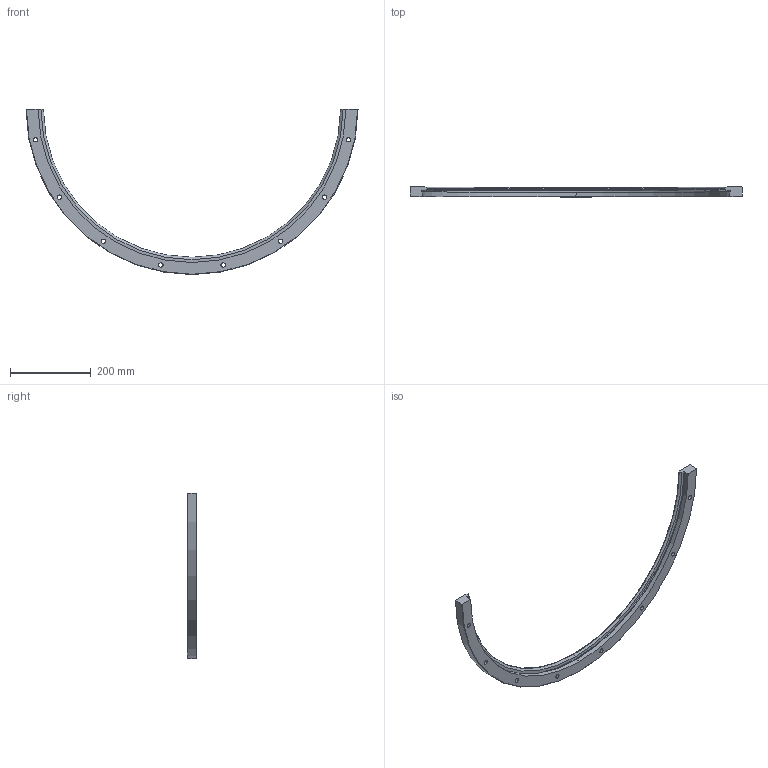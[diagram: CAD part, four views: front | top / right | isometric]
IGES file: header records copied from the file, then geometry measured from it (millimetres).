
Start section: 3D InterOp IGES (v. 2020 1.0.1), Spatial Corp. Copyright (c) 1999-2017.
Global section: file name: ril_820_r180.igs; native system: Spatial Corp.; preprocessor: 3D InterOp ACIS/IGES; author: TraceParts; organization: TraceParts S.A.; date: 20220624.063335; units: millimetre
Bounding box: 819.99 x 24 x 408 mm (x, y, z)
Surface area: 165244.3 mm2 (no closed solid volume)
Topology: 0 solids, 0 shells, 64 faces, 314 edges, 314 vertices
Faces by surface type: revolution 50, extrusion 14
